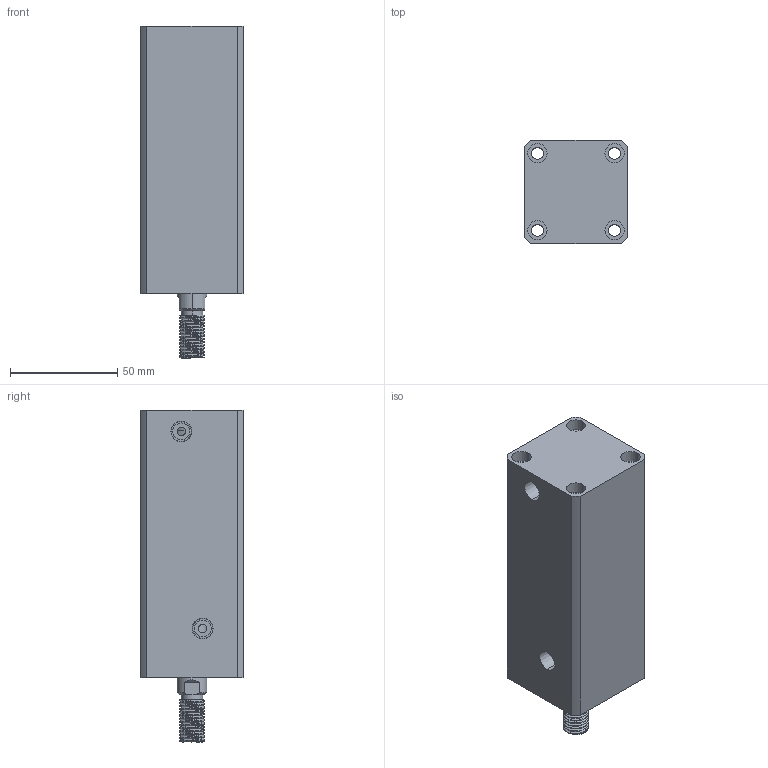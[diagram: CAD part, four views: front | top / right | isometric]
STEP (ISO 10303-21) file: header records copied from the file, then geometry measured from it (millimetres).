
FILE_DESCRIPTION (( 'STEP AP214' ), '1' );
FILE_NAME ('chtb-sd25x80w_asm.STEP', '2018-05-22T09:44:52', ( 'Windows' ), ( 'Microsoft' ), 'SwSTEP 2.0', 'SolidWorks 2015', '' );
FILE_SCHEMA (( 'AUTOMOTIVE_DESIGN' ));
Length unit declared in the file: millimetre
Products named in the file (4): CHTB-25QG; chtb-sd25x80w_asm; CHTB-SD25X80WHSG; CHTB-SD25X80NBT
Assembly tree (3 placements, depth 2):
  chtb-sd25x80w_asm
    CHTB-25QG
    CHTB-SD25X80NBT
    CHTB-SD25X80WHSG
Bounding box: 48 x 48 x 155 mm (x, y, z)
Volume: 246323.8 mm3; surface area: 60593.3 mm2
Topology: 3 solids, 3 shells, 178 faces, 474 edges, 323 vertices
Faces by surface type: cylinder 113, plane 39, cone 14, bspline 12
Entity records: 10610 total; most frequent: CARTESIAN_POINT 6273, ORIENTED_EDGE 940, DIRECTION 778, EDGE_CURVE 470, VERTEX_POINT 323, AXIS2_PLACEMENT_3D 317, EDGE_LOOP 217, FACE_OUTER_BOUND 178
